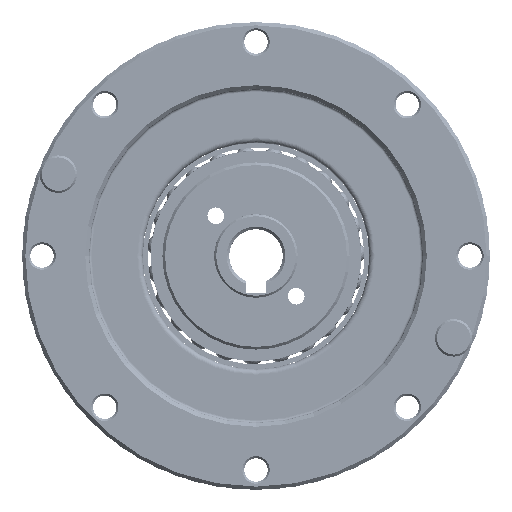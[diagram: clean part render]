
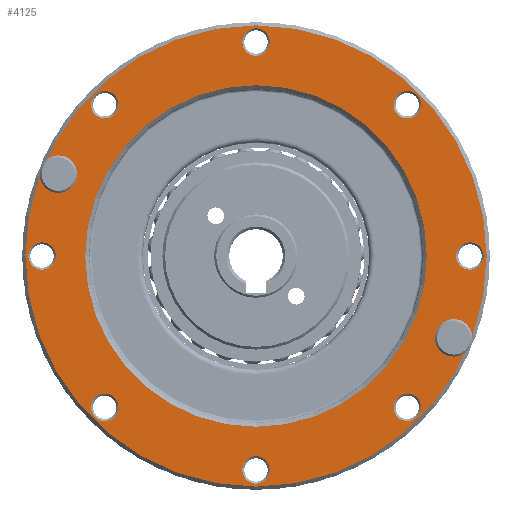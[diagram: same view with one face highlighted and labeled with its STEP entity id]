
A CAD part, front view. The second image highlights one B-rep face of the part: STEP entity #4125.
In plain terms, the highlighted planar face has unit normal (0, -1, 0).
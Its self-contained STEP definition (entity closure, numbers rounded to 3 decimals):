
#3647=PLANE('',#12816);
#4125=ADVANCED_FACE('',(#4974,#4975,#4976,#4977,#4978,#4979,#4980,#4981,
#4982,#4983,#4984,#4985),#3647,.F.);
#4974=FACE_BOUND('',#5572,.T.);
#4975=FACE_BOUND('',#5573,.T.);
#4976=FACE_BOUND('',#5574,.T.);
#4977=FACE_BOUND('',#5575,.T.);
#4978=FACE_BOUND('',#5576,.T.);
#4979=FACE_BOUND('',#5577,.T.);
#4980=FACE_BOUND('',#5578,.T.);
#4981=FACE_BOUND('',#5579,.T.);
#4982=FACE_BOUND('',#5580,.T.);
#4983=FACE_BOUND('',#5581,.T.);
#4984=FACE_BOUND('',#5582,.T.);
#4985=FACE_BOUND('',#5583,.T.);
#5572=EDGE_LOOP('',(#6593));
#5573=EDGE_LOOP('',(#6594));
#5574=EDGE_LOOP('',(#6595));
#5575=EDGE_LOOP('',(#6596));
#5576=EDGE_LOOP('',(#6597));
#5577=EDGE_LOOP('',(#6598));
#5578=EDGE_LOOP('',(#6599));
#5579=EDGE_LOOP('',(#6600));
#5580=EDGE_LOOP('',(#6601));
#5581=EDGE_LOOP('',(#6602));
#5582=EDGE_LOOP('',(#6603));
#5583=EDGE_LOOP('',(#6604));
#6593=ORIENTED_EDGE('',*,*,#10740,.T.);
#6594=ORIENTED_EDGE('',*,*,#10741,.T.);
#6595=ORIENTED_EDGE('',*,*,#10742,.T.);
#6596=ORIENTED_EDGE('',*,*,#10743,.T.);
#6597=ORIENTED_EDGE('',*,*,#10744,.T.);
#6598=ORIENTED_EDGE('',*,*,#10745,.T.);
#6599=ORIENTED_EDGE('',*,*,#10746,.T.);
#6600=ORIENTED_EDGE('',*,*,#10747,.T.);
#6601=ORIENTED_EDGE('',*,*,#10748,.T.);
#6602=ORIENTED_EDGE('',*,*,#10749,.T.);
#6603=ORIENTED_EDGE('',*,*,#10750,.F.);
#6604=ORIENTED_EDGE('',*,*,#10739,.T.);
#9619=VERTEX_POINT('',#16879);
#9620=VERTEX_POINT('',#16882);
#9621=VERTEX_POINT('',#16884);
#9622=VERTEX_POINT('',#16886);
#9623=VERTEX_POINT('',#16888);
#9624=VERTEX_POINT('',#16890);
#9625=VERTEX_POINT('',#16892);
#9626=VERTEX_POINT('',#16894);
#9627=VERTEX_POINT('',#16896);
#9628=VERTEX_POINT('',#16898);
#9629=VERTEX_POINT('',#16900);
#9630=VERTEX_POINT('',#16902);
#10739=EDGE_CURVE('',#9619,#9619,#12257,.T.);
#10740=EDGE_CURVE('',#9620,#9620,#12258,.T.);
#10741=EDGE_CURVE('',#9621,#9621,#12259,.T.);
#10742=EDGE_CURVE('',#9622,#9622,#12260,.T.);
#10743=EDGE_CURVE('',#9623,#9623,#12261,.T.);
#10744=EDGE_CURVE('',#9624,#9624,#12262,.T.);
#10745=EDGE_CURVE('',#9625,#9625,#12263,.T.);
#10746=EDGE_CURVE('',#9626,#9626,#12264,.T.);
#10747=EDGE_CURVE('',#9627,#9627,#12265,.T.);
#10748=EDGE_CURVE('',#9628,#9628,#12266,.T.);
#10749=EDGE_CURVE('',#9629,#9629,#12267,.T.);
#10750=EDGE_CURVE('',#9630,#9630,#12268,.T.);
#12257=CIRCLE('',#12803,34.5);
#12258=CIRCLE('',#12805,2.05);
#12259=CIRCLE('',#12806,2.05);
#12260=CIRCLE('',#12807,2.05);
#12261=CIRCLE('',#12808,2.05);
#12262=CIRCLE('',#12809,2.05);
#12263=CIRCLE('',#12810,2.05);
#12264=CIRCLE('',#12811,2.05);
#12265=CIRCLE('',#12812,2.05);
#12266=CIRCLE('',#12813,2.05);
#12267=CIRCLE('',#12814,2.05);
#12268=CIRCLE('',#12815,25.546);
#12803=AXIS2_PLACEMENT_3D('',#16878,#13992,#13993);
#12805=AXIS2_PLACEMENT_3D('',#16881,#13996,#13997);
#12806=AXIS2_PLACEMENT_3D('',#16883,#13998,#13999);
#12807=AXIS2_PLACEMENT_3D('',#16885,#14000,#14001);
#12808=AXIS2_PLACEMENT_3D('',#16887,#14002,#14003);
#12809=AXIS2_PLACEMENT_3D('',#16889,#14004,#14005);
#12810=AXIS2_PLACEMENT_3D('',#16891,#14006,#14007);
#12811=AXIS2_PLACEMENT_3D('',#16893,#14008,#14009);
#12812=AXIS2_PLACEMENT_3D('',#16895,#14010,#14011);
#12813=AXIS2_PLACEMENT_3D('',#16897,#14012,#14013);
#12814=AXIS2_PLACEMENT_3D('',#16899,#14014,#14015);
#12815=AXIS2_PLACEMENT_3D('',#16901,#14016,#14017);
#12816=AXIS2_PLACEMENT_3D('',#16903,#14018,#14019);
#13992=DIRECTION('',(0.,-1.,0.));
#13993=DIRECTION('',(0.,0.,-1.));
#13996=DIRECTION('',(0.,1.,0.));
#13997=DIRECTION('',(0.,0.,1.));
#13998=DIRECTION('',(0.,1.,0.));
#13999=DIRECTION('',(0.,0.,1.));
#14000=DIRECTION('',(0.,1.,0.));
#14001=DIRECTION('',(0.,0.,1.));
#14002=DIRECTION('',(0.,1.,0.));
#14003=DIRECTION('',(0.,0.,1.));
#14004=DIRECTION('',(0.,1.,0.));
#14005=DIRECTION('',(0.,0.,1.));
#14006=DIRECTION('',(0.,1.,0.));
#14007=DIRECTION('',(0.,0.,1.));
#14008=DIRECTION('',(0.,1.,0.));
#14009=DIRECTION('',(0.,0.,1.));
#14010=DIRECTION('',(0.,1.,0.));
#14011=DIRECTION('',(0.,0.,1.));
#14012=DIRECTION('',(0.,1.,0.));
#14013=DIRECTION('',(0.,0.,1.));
#14014=DIRECTION('',(0.,1.,0.));
#14015=DIRECTION('',(0.,0.,1.));
#14016=DIRECTION('',(0.,-1.,0.));
#14017=DIRECTION('',(0.,0.,-1.));
#14018=DIRECTION('',(0.,1.,0.));
#14019=DIRECTION('',(0.,0.,1.));
#16878=CARTESIAN_POINT('',(0.,-23.1,0.));
#16879=CARTESIAN_POINT('',(0.,-23.1,-34.5));
#16881=CARTESIAN_POINT('',(-29.564,-23.1,12.246));
#16882=CARTESIAN_POINT('',(-29.564,-23.1,14.296));
#16883=CARTESIAN_POINT('',(22.627,-23.1,22.627));
#16884=CARTESIAN_POINT('',(22.627,-23.1,24.677));
#16885=CARTESIAN_POINT('',(0.,-23.1,32.));
#16886=CARTESIAN_POINT('',(0.,-23.1,34.05));
#16887=CARTESIAN_POINT('',(-22.627,-23.1,22.627));
#16888=CARTESIAN_POINT('',(-22.627,-23.1,24.677));
#16889=CARTESIAN_POINT('',(-32.,-23.1,0.));
#16890=CARTESIAN_POINT('',(-32.,-23.1,2.05));
#16891=CARTESIAN_POINT('',(-22.627,-23.1,-22.627));
#16892=CARTESIAN_POINT('',(-22.627,-23.1,-20.577));
#16893=CARTESIAN_POINT('',(0.,-23.1,-32.));
#16894=CARTESIAN_POINT('',(0.,-23.1,-29.95));
#16895=CARTESIAN_POINT('',(22.627,-23.1,-22.627));
#16896=CARTESIAN_POINT('',(22.627,-23.1,-20.577));
#16897=CARTESIAN_POINT('',(29.564,-23.1,-12.246));
#16898=CARTESIAN_POINT('',(29.564,-23.1,-10.196));
#16899=CARTESIAN_POINT('',(32.,-23.1,0.));
#16900=CARTESIAN_POINT('',(32.,-23.1,2.05));
#16901=CARTESIAN_POINT('',(0.,-23.1,0.));
#16902=CARTESIAN_POINT('',(0.,-23.1,-25.546));
#16903=CARTESIAN_POINT('',(34.5,-23.1,0.));
